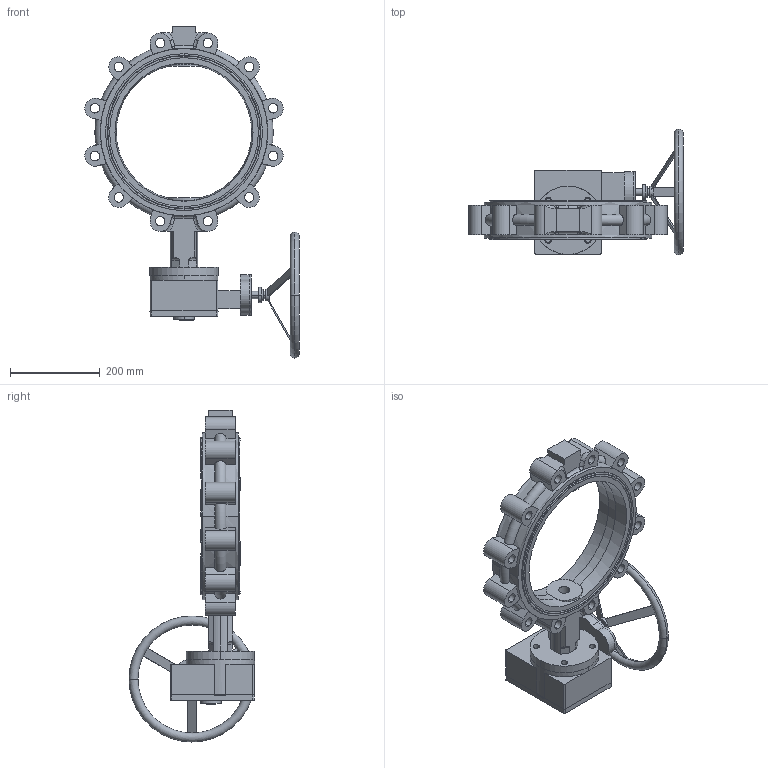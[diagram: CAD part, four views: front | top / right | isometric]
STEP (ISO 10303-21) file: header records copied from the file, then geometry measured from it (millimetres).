
FILE_DESCRIPTION (( 'STEP AP203' ), '1' );
FILE_NAME ('DN300凸耳涡轮头12寸.STEP', '2026-06-10T07:25:24', ( '微软用户' ), ( '微软中国' ), 'SwSTEP 2.0', 'SolidWorks 2024', '' );
FILE_SCHEMA (( 'CONFIG_CONTROL_DESIGN' ));
Length unit declared in the file: millimetre
Products named in the file (4): 衬胶12寸; 12-14寸涡轮头2222; 300凸耳PN10-16，32.6公斤_step; DN300凸耳涡轮头12寸
Assembly tree (3 placements, depth 2):
  DN300凸耳涡轮头12寸
    300凸耳PN10-16，32.6公斤_step
    衬胶12寸
    12-14寸涡轮头2222
Bounding box: 476.49 x 280 x 738 mm (x, y, z)
Volume: 7892641.3 mm3; surface area: 1169696.3 mm2
Topology: 10 solids, 10 shells, 374 faces, 975 edges, 631 vertices
Faces by surface type: cylinder 162, plane 157, torus 35, cone 12, sphere 8
Entity records: 13990 total; most frequent: CARTESIAN_POINT 4197, DIRECTION 2048, ORIENTED_EDGE 1918, EDGE_CURVE 959, AXIS2_PLACEMENT_3D 814, VERTEX_POINT 623, EDGE_LOOP 446, CIRCLE 434
